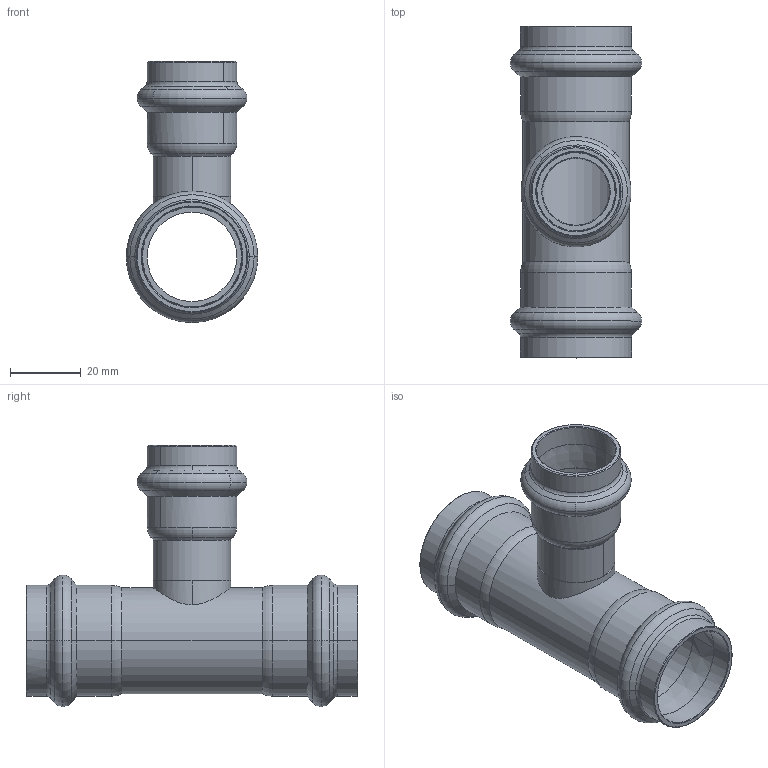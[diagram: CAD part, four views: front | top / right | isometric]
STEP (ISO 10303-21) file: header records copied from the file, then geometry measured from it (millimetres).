
FILE_DESCRIPTION(('CoCreate Modeling STEP Export'),'2;1');
FILE_NAME('8130RVW282228.stp','2013-01-31T14:39:28',(''),(''),'CoCreate Modeling STEP processor for AP214 (Solid Model)','CoCreate Modeling 17.00A 17-Jun-2010 (C) Parametric Technology GmbH','');
FILE_SCHEMA(('AUTOMOTIVE_DESIGN { 1 0 10303 214 1 1 1 1 }'));
Length unit declared in the file: millimetre
Products named in the file (2): 8130RVW282228
Assembly tree (1 placements, depth 2):
  8130RVW282228
    8130RVW282228
Bounding box: 37.2 x 93.81 x 73.84 mm (x, y, z)
Volume: 21679.6 mm3; surface area: 24661.5 mm2
Topology: 1 solids, 1 shells, 134 faces, 327 edges, 203 vertices
Faces by surface type: torus 42, cylinder 42, cone 38, plane 10, bspline 2
Entity records: 5715 total; most frequent: CARTESIAN_POINT 3088, ORIENTED_EDGE 654, DIRECTION 444, EDGE_CURVE 327, VERTEX_POINT 203, AXIS2_PLACEMENT_3D 182, EDGE_LOOP 146, FACE_OUTER_BOUND 134
